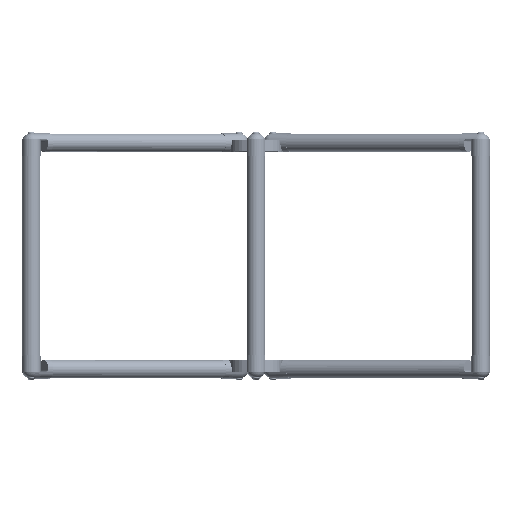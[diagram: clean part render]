
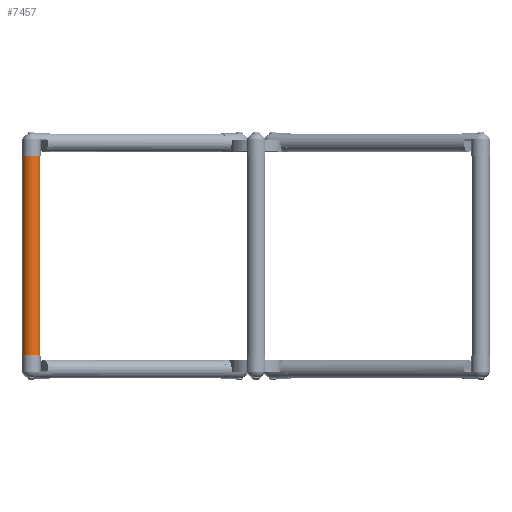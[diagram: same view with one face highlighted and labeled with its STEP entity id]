
A CAD part, top view. The second image highlights one B-rep face of the part: STEP entity #7457.
In plain terms, the highlighted cylindrical face has radius 13.716 mm (diameter 27.432 mm), a partial arc.
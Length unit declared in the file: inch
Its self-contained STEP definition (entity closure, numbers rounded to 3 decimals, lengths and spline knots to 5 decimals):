
#199 = EDGE_LOOP ( 'NONE', ( #489, #10193, #8242, #5450 ) ) ;
#489 = ORIENTED_EDGE ( 'NONE', *, *, #3853, .F. ) ;
#667 = CARTESIAN_POINT ( 'NONE',  ( -12., 0., 0. ) ) ;
#1137 = CIRCLE ( 'NONE', #9292, 0.54 ) ;
#1943 = EDGE_CURVE ( 'NONE', #10780, #2592, #1137, .T. ) ;
#2239 = CARTESIAN_POINT ( 'NONE',  ( 0., 0., 0.54 ) ) ;
#2592 = VERTEX_POINT ( 'NONE', #4122 ) ;
#2754 = DIRECTION ( 'NONE',  ( 1., 0., 0. ) ) ;
#3084 = CIRCLE ( 'NONE', #6966, 0.54 ) ;
#3734 = DIRECTION ( 'NONE',  ( 1., 0., 0. ) ) ;
#3853 = EDGE_CURVE ( 'NONE', #10780, #6503, #3988, .T. ) ;
#3988 = LINE ( 'NONE', #2239, #8118 ) ;
#4122 = CARTESIAN_POINT ( 'NONE',  ( -12., 0., -0.54 ) ) ;
#4270 = DIRECTION ( 'NONE',  ( 0., 0., -1. ) ) ;
#4438 = VECTOR ( 'NONE', #2754, 39.37008 ) ;
#4518 = DIRECTION ( 'NONE',  ( 1., 0., 0. ) ) ;
#4808 = AXIS2_PLACEMENT_3D ( 'NONE', #5963, #12297, #10693 ) ;
#5058 = EDGE_CURVE ( 'NONE', #2592, #11987, #11314, .T. ) ;
#5450 = ORIENTED_EDGE ( 'NONE', *, *, #11145, .F. ) ;
#5963 = CARTESIAN_POINT ( 'NONE',  ( 0., 0., 0. ) ) ;
#6010 = CARTESIAN_POINT ( 'NONE',  ( 0., 0., -0.54 ) ) ;
#6210 = CARTESIAN_POINT ( 'NONE',  ( -12., 0., 0.54 ) ) ;
#6503 = VERTEX_POINT ( 'NONE', #8116 ) ;
#6966 = AXIS2_PLACEMENT_3D ( 'NONE', #9103, #4518, #4270 ) ;
#7457 = ADVANCED_FACE ( 'NONE', ( #8837 ), #11985, .T. ) ;
#8116 = CARTESIAN_POINT ( 'NONE',  ( 0., 0., 0.54 ) ) ;
#8118 = VECTOR ( 'NONE', #8910, 39.37008 ) ;
#8242 = ORIENTED_EDGE ( 'NONE', *, *, #5058, .T. ) ;
#8837 = FACE_OUTER_BOUND ( 'NONE', #199, .T. ) ;
#8910 = DIRECTION ( 'NONE',  ( 1., 0., 0. ) ) ;
#9103 = CARTESIAN_POINT ( 'NONE',  ( 0., 0., 0. ) ) ;
#9292 = AXIS2_PLACEMENT_3D ( 'NONE', #667, #3734, #10241 ) ;
#10164 = CARTESIAN_POINT ( 'NONE',  ( 0., 0., -0.54 ) ) ;
#10193 = ORIENTED_EDGE ( 'NONE', *, *, #1943, .T. ) ;
#10241 = DIRECTION ( 'NONE',  ( 0., 0., -1. ) ) ;
#10693 = DIRECTION ( 'NONE',  ( 0., 0., -1. ) ) ;
#10780 = VERTEX_POINT ( 'NONE', #6210 ) ;
#11145 = EDGE_CURVE ( 'NONE', #6503, #11987, #3084, .T. ) ;
#11314 = LINE ( 'NONE', #10164, #4438 ) ;
#11985 = CYLINDRICAL_SURFACE ( 'NONE', #4808, 0.54 ) ;
#11987 = VERTEX_POINT ( 'NONE', #6010 ) ;
#12297 = DIRECTION ( 'NONE',  ( 1., 0., 0. ) ) ;
